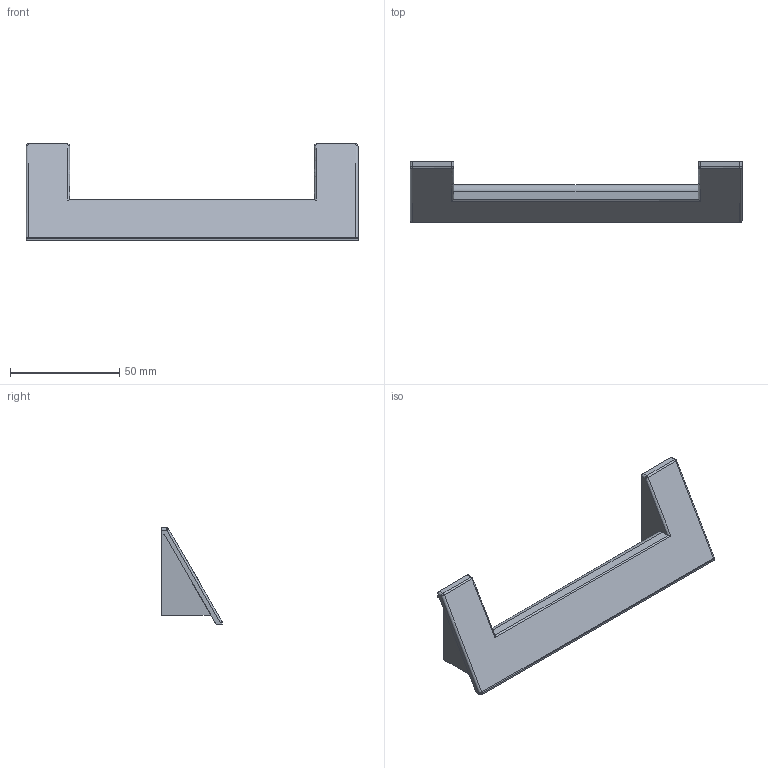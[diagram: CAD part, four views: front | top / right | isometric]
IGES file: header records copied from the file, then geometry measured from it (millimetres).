
Start section: C
Global section: file name: 8064-152.igs; native system: By Siemens PLM Incorporated; preprocessor: XPlus GENERIC/IGES 16.0.42; author: Author; organization: Title; date: 20231128.130828; units: millimetre
Bounding box: 152 x 27.8 x 44 mm (x, y, z)
Surface area: 16740.7 mm2 (no closed solid volume)
Topology: 0 solids, 0 shells, 75 faces, 374 edges, 370 vertices
Faces by surface type: bspline 75
